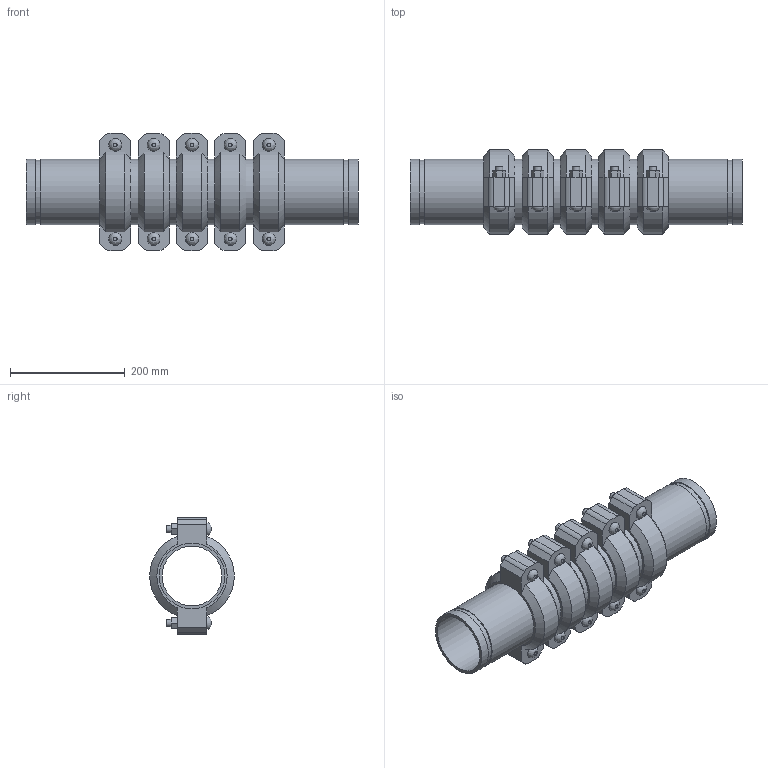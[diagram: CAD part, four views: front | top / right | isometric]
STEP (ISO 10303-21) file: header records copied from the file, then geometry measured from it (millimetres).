
FILE_DESCRIPTION(/* description */ ('VIC EXPANSION JOINT 5 COUPLINGS EXPANDED STYLE 155 (OGS)','CAx-IF Rec.Pracs.---Representation and Presentation of Product Manufacturing Information (PMI)---4.0---2014-10-13'),/* implementation_level */ '2;1');
FILE_NAME(/* name */ 'C:\Users\kkamble\AppData\Roaming\Autodesk\ApplicationPlugins\Victaulic.Temp\A557\Victaulic_IPS_Expansion Joint_Expanded_5 Couplings_Style 155 (OGS)_4 (100).stp',/* time_stamp */ '2021-06-27T00:02:38+02:00',/* author */ ('kkamble'),/* organization */ ('Victaulic'),/* preprocessor_version */ 'ST-DEVELOPER v17.2',/* originating_system */ 'Autodesk Inventor 2019',/* authorisation */ '');
FILE_SCHEMA (('AP242_MANAGED_MODEL_BASED_3D_ENGINEERING_MIM_LF { 1 0 10303 442 1 1 4 }'));
Length unit declared in the file: inch
Products named in the file (4): 155-04.0; Nipple-04.0; Nipple-04.0_1; 075-04.0
Assembly tree (11 placements, depth 2):
  155-04.0
    Nipple-04.0  x2
    Nipple-04.0_1  x4
    075-04.0  x5
Bounding box: 577.6 x 147.32 x 203.96 mm (x, y, z)
Volume: 3323933.3 mm3; surface area: 812183.4 mm2
Topology: 11 solids, 21 shells, 357 faces, 845 edges, 594 vertices
Faces by surface type: plane 216, cylinder 111, cone 20, bspline 10
Full cylindrical faces by diameter (mm): 12.7 x20, 14.605 x10, 103.988 x6, 107.95 x5, 110.084 x12, 114.3 x28
Entity records: 2801 total; most frequent: CARTESIAN_POINT 495, DIRECTION 465, ORIENTED_EDGE 386, EDGE_CURVE 193, AXIS2_PLACEMENT_3D 186, VERTEX_POINT 138, EDGE_LOOP 107, LINE 93
